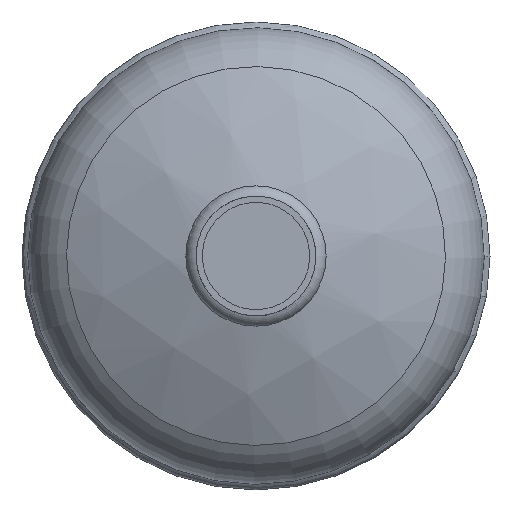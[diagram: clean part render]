
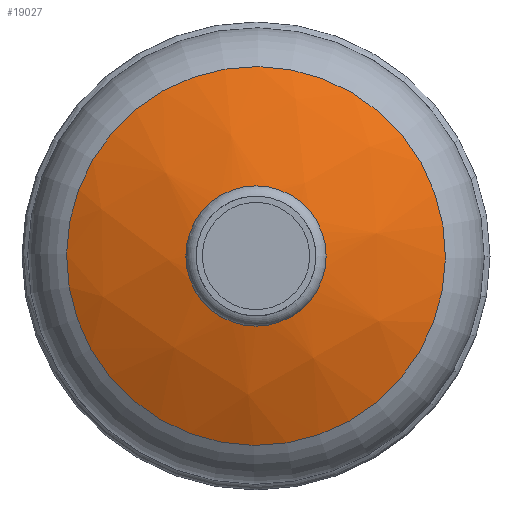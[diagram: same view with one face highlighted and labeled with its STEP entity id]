
A CAD part, front view. The second image highlights one B-rep face of the part: STEP entity #19027.
In plain terms, the highlighted spherical face has radius 105 mm.
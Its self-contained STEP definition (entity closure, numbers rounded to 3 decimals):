
#19=SPHERICAL_SURFACE('',#20110,105.);
#1134=FACE_BOUND('',#3320,.T.);
#2186=FACE_OUTER_BOUND('',#3319,.T.);
#3319=EDGE_LOOP('',(#17652));
#3320=EDGE_LOOP('',(#17653));
#4843=CIRCLE('',#20098,18.738);
#4849=CIRCLE('',#20111,50.647);
#9315=VERTEX_POINT('',#41152);
#9321=VERTEX_POINT('',#41171);
#12175=EDGE_CURVE('',#9315,#9315,#4843,.T.);
#12181=EDGE_CURVE('',#9321,#9321,#4849,.T.);
#17652=ORIENTED_EDGE('',*,*,#12181,.F.);
#17653=ORIENTED_EDGE('',*,*,#12175,.T.);
#19027=ADVANCED_FACE('',(#2186,#1134),#19,.T.);
#20098=AXIS2_PLACEMENT_3D('',#41153,#23529,#23530);
#20110=AXIS2_PLACEMENT_3D('',#41170,#23553,#23554);
#20111=AXIS2_PLACEMENT_3D('',#41172,#23555,#23556);
#23529=DIRECTION('center_axis',(0.,1.,0.));
#23530=DIRECTION('ref_axis',(0.,0.,1.));
#23553=DIRECTION('center_axis',(-0.491,0.,
0.871));
#23554=DIRECTION('ref_axis',(-0.871,0.,-0.491));
#23555=DIRECTION('center_axis',(0.,1.,0.));
#23556=DIRECTION('ref_axis',(0.871,0.,0.491));
#41152=CARTESIAN_POINT('',(0.,-58.315,-18.738));
#41153=CARTESIAN_POINT('Origin',(0.,-58.315,0.));
#41170=CARTESIAN_POINT('Origin',(0.,45.,0.));
#41171=CARTESIAN_POINT('',(44.116,-46.978,24.877));
#41172=CARTESIAN_POINT('Origin',(0.,-46.978,
0.));
